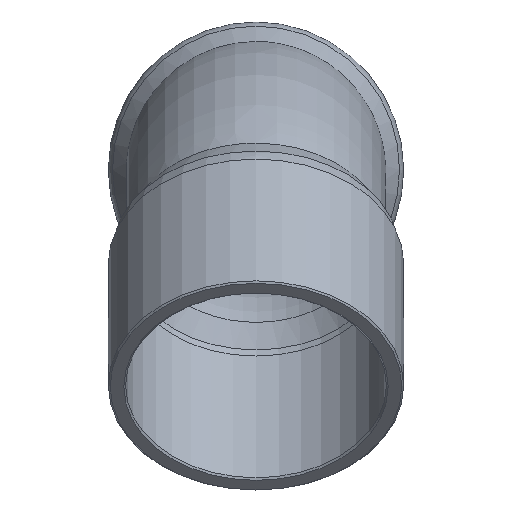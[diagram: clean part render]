
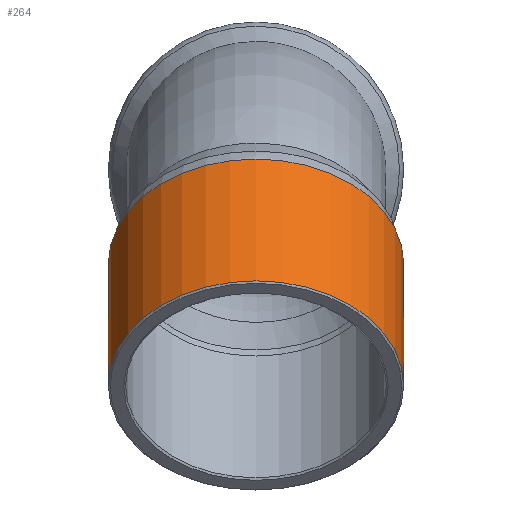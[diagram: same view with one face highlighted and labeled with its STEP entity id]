
A CAD part, top view. The second image highlights one B-rep face of the part: STEP entity #264.
In plain terms, the highlighted free-form (B-spline) face has degree [1, 2] with [2, 9] control points.
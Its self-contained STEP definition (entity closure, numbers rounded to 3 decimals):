
#192=CARTESIAN_POINT('',(0.,21.965,49.542));
#193=VERTEX_POINT('',#192);
#194=CARTESIAN_POINT('',(0.0,10.465,38.042));
#195=DIRECTION('',(0.0,-0.707,0.707));
#196=DIRECTION('',(0.0,-0.707,-0.707));
#197=AXIS2_PLACEMENT_3D('',#194,#195,#196);
#198=CIRCLE('',#197,16.263);
#199=EDGE_CURVE('',#193,#193,#198,.T.);
#224=CARTESIAN_POINT('',(0.,23.9,1.609));
#225=CARTESIAN_POINT('',(0.,-12.533,38.042));
#226=CARTESIAN_POINT('',(-16.263,23.9,1.609));
#227=CARTESIAN_POINT('',(-16.263,-12.533,38.042));
#228=CARTESIAN_POINT('',(-16.263,35.4,13.108));
#229=CARTESIAN_POINT('',(-16.263,-1.034,49.542));
#230=CARTESIAN_POINT('',(-16.263,46.899,24.607));
#231=CARTESIAN_POINT('',(-16.263,10.465,61.041));
#232=CARTESIAN_POINT('',(0.,46.899,24.607));
#233=CARTESIAN_POINT('',(0.,10.465,61.041));
#234=CARTESIAN_POINT('',(16.263,46.899,24.607));
#235=CARTESIAN_POINT('',(16.263,10.465,61.041));
#236=CARTESIAN_POINT('',(16.263,35.4,13.108));
#237=CARTESIAN_POINT('',(16.263,-1.034,49.542));
#238=CARTESIAN_POINT('',(16.263,23.9,1.609));
#239=CARTESIAN_POINT('',(16.263,-12.533,38.042));
#240=CARTESIAN_POINT('',(0.,23.9,1.609));
#241=CARTESIAN_POINT('',(0.,-12.533,38.042));
#249=(BOUNDED_SURFACE()B_SPLINE_SURFACE(1,2,((#224,#226,#228,#230,#232,#234,#236,#238,#240),(#225,#227,#229,#231,#233,#235,#237,#239,#241)),.UNSPECIFIED.,.F.,.T.,.U.)B_SPLINE_SURFACE_WITH_KNOTS((2,2),(3,2,2,2,3),(-1.59,1.578),(0.0,25.545,51.09,76.635,102.18),.UNSPECIFIED.)GEOMETRIC_REPRESENTATION_ITEM()RATIONAL_B_SPLINE_SURFACE(((1.0,0.707,1.0,0.707,1.0,0.707,1.0,0.707,1.0),(1.0,0.707,1.0,0.707,1.0,0.707,1.0,0.707,1.0)))REPRESENTATION_ITEM('')SURFACE());
#250=CARTESIAN_POINT('',(0.0,35.4,36.107));
#251=VERTEX_POINT('',#250);
#252=CARTESIAN_POINT('',(0.0,23.9,24.607));
#253=DIRECTION('',(0.0,0.707,-0.707));
#254=DIRECTION('',(0.0,0.707,0.707));
#255=AXIS2_PLACEMENT_3D('',#252,#253,#254);
#256=CIRCLE('',#255,16.263);
#257=EDGE_CURVE('',#251,#251,#256,.T.);
#258=ORIENTED_EDGE('',*,*,#257,.F.);
#259=EDGE_LOOP('',(#258));
#260=FACE_OUTER_BOUND('',#259,.T.);
#261=ORIENTED_EDGE('',*,*,#199,.F.);
#262=EDGE_LOOP('',(#261));
#263=FACE_BOUND('',#262,.T.);
#264=ADVANCED_FACE('',(#260,#263),#249,.T.);
